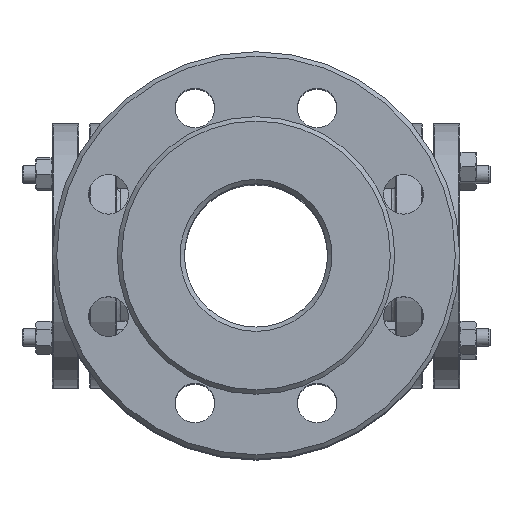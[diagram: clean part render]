
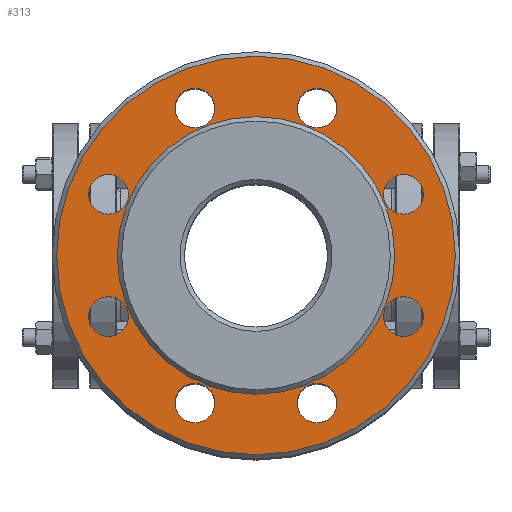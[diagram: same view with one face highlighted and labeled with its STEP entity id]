
A CAD part, top view. The second image highlights one B-rep face of the part: STEP entity #313.
In plain terms, the highlighted planar face has unit normal (0, 0, 1).
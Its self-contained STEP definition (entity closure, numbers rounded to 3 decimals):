
#313=ADVANCED_FACE('',(#2868,#2870,#2872,#2874,#2876,#2878,#2880,#2882,#2884,#2886),
#2888,.T.);
#2868=FACE_BOUND('',#2869,.T.);
#2869=EDGE_LOOP('',(#8361));
#2870=FACE_BOUND('',#2871,.T.);
#2871=EDGE_LOOP('',(#8362));
#2872=FACE_BOUND('',#2873,.T.);
#2873=EDGE_LOOP('',(#8363));
#2874=FACE_BOUND('',#2875,.T.);
#2875=EDGE_LOOP('',(#8364));
#2876=FACE_BOUND('',#2877,.T.);
#2877=EDGE_LOOP('',(#8365));
#2878=FACE_BOUND('',#2879,.T.);
#2879=EDGE_LOOP('',(#8366));
#2880=FACE_BOUND('',#2881,.T.);
#2881=EDGE_LOOP('',(#8367));
#2882=FACE_BOUND('',#2883,.T.);
#2883=EDGE_LOOP('',(#8368));
#2884=FACE_BOUND('',#2885,.T.);
#2885=EDGE_LOOP('',(#8369));
#2886=FACE_BOUND('',#2887,.T.);
#2887=EDGE_LOOP('',(#8370));
#2888=PLANE('',#2889);
#2889=AXIS2_PLACEMENT_3D('',#2890,#2891,#2892);
#2890=CARTESIAN_POINT('',(0.,0.,143.));
#2891=DIRECTION('',(0.,0.,1.));
#2892=DIRECTION('',(1.,0.,0.));
#8361=ORIENTED_EDGE('',*,*,#10688,.T.);
#8362=ORIENTED_EDGE('',*,*,#10689,.F.);
#8363=ORIENTED_EDGE('',*,*,#10690,.T.);
#8364=ORIENTED_EDGE('',*,*,#10691,.T.);
#8365=ORIENTED_EDGE('',*,*,#10692,.T.);
#8366=ORIENTED_EDGE('',*,*,#10637,.F.);
#8367=ORIENTED_EDGE('',*,*,#10693,.T.);
#8368=ORIENTED_EDGE('',*,*,#10694,.F.);
#8369=ORIENTED_EDGE('',*,*,#10695,.F.);
#8370=ORIENTED_EDGE('',*,*,#10696,.T.);
#10637=EDGE_CURVE('',#11879,#11879,#11880,.T.);
#10688=EDGE_CURVE('',#11957,#11957,#11958,.T.);
#10689=EDGE_CURVE('',#11959,#11959,#11960,.T.);
#10690=EDGE_CURVE('',#11961,#11961,#11962,.T.);
#10691=EDGE_CURVE('',#11963,#11963,#11964,.T.);
#10692=EDGE_CURVE('',#11965,#11965,#11966,.T.);
#10693=EDGE_CURVE('',#11967,#11967,#11968,.T.);
#10694=EDGE_CURVE('',#11969,#11969,#11970,.T.);
#10695=EDGE_CURVE('',#11971,#11971,#11972,.T.);
#10696=EDGE_CURVE('',#11973,#11973,#11974,.T.);
#11879=VERTEX_POINT('',#15457);
#11880=CIRCLE('',#15458,63.);
#11957=VERTEX_POINT('',#16456);
#11958=CIRCLE('',#16457,90.5);
#11959=VERTEX_POINT('',#16461);
#11960=CIRCLE('',#16462,9.);
#11961=VERTEX_POINT('',#16466);
#11962=CIRCLE('',#16467,9.);
#11963=VERTEX_POINT('',#16471);
#11964=CIRCLE('',#16472,9.);
#11965=VERTEX_POINT('',#16476);
#11966=CIRCLE('',#16477,9.);
#11967=VERTEX_POINT('',#16481);
#11968=CIRCLE('',#16482,9.);
#11969=VERTEX_POINT('',#16486);
#11970=CIRCLE('',#16487,9.);
#11971=VERTEX_POINT('',#16491);
#11972=CIRCLE('',#16492,9.);
#11973=VERTEX_POINT('',#16496);
#11974=CIRCLE('',#16497,9.);
#15457=CARTESIAN_POINT('',(63.,0.,143.));
#15458=AXIS2_PLACEMENT_3D('',#15459,#15460,#15461);
#15459=CARTESIAN_POINT('',(0.,0.,143.));
#15460=DIRECTION('',(0.,0.,1.));
#15461=DIRECTION('',(1.,0.,0.));
#16456=CARTESIAN_POINT('',(90.5,0.,143.));
#16457=AXIS2_PLACEMENT_3D('',#16458,#16459,#16460);
#16458=CARTESIAN_POINT('',(0.,0.,143.));
#16459=DIRECTION('',(0.,0.,1.));
#16460=DIRECTION('',(1.,0.,0.));
#16461=CARTESIAN_POINT('',(-57.981,27.745,143.));
#16462=AXIS2_PLACEMENT_3D('',#16463,#16464,#16465);
#16463=CARTESIAN_POINT('',(-66.981,27.745,143.));
#16464=DIRECTION('',(0.,0.,1.));
#16465=DIRECTION('',(1.,0.,0.));
#16466=CARTESIAN_POINT('',(36.745,66.981,143.));
#16467=AXIS2_PLACEMENT_3D('',#16468,#16469,#16470);
#16468=CARTESIAN_POINT('',(27.745,66.981,143.));
#16469=DIRECTION('',(0.,0.,-1.));
#16470=DIRECTION('',(1.,0.,0.));
#16471=CARTESIAN_POINT('',(36.745,-66.981,143.));
#16472=AXIS2_PLACEMENT_3D('',#16473,#16474,#16475);
#16473=CARTESIAN_POINT('',(27.745,-66.981,143.));
#16474=DIRECTION('',(0.,0.,-1.));
#16475=DIRECTION('',(1.,0.,0.));
#16476=CARTESIAN_POINT('',(75.981,-27.745,143.));
#16477=AXIS2_PLACEMENT_3D('',#16478,#16479,#16480);
#16478=CARTESIAN_POINT('',(66.981,-27.745,143.));
#16479=DIRECTION('',(0.,0.,-1.));
#16480=DIRECTION('',(1.,0.,0.));
#16481=CARTESIAN_POINT('',(75.981,27.745,143.));
#16482=AXIS2_PLACEMENT_3D('',#16483,#16484,#16485);
#16483=CARTESIAN_POINT('',(66.981,27.745,143.));
#16484=DIRECTION('',(0.,0.,-1.));
#16485=DIRECTION('',(1.,0.,0.));
#16486=CARTESIAN_POINT('',(-36.745,66.981,143.));
#16487=AXIS2_PLACEMENT_3D('',#16488,#16489,#16490);
#16488=CARTESIAN_POINT('',(-27.745,66.981,143.));
#16489=DIRECTION('',(0.,0.,1.));
#16490=DIRECTION('',(-1.,0.,0.));
#16491=CARTESIAN_POINT('',(-36.745,-66.981,143.));
#16492=AXIS2_PLACEMENT_3D('',#16493,#16494,#16495);
#16493=CARTESIAN_POINT('',(-27.745,-66.981,143.));
#16494=DIRECTION('',(0.,0.,1.));
#16495=DIRECTION('',(-1.,0.,0.));
#16496=CARTESIAN_POINT('',(-57.981,-27.745,143.));
#16497=AXIS2_PLACEMENT_3D('',#16498,#16499,#16500);
#16498=CARTESIAN_POINT('',(-66.981,-27.745,143.));
#16499=DIRECTION('',(0.,0.,-1.));
#16500=DIRECTION('',(1.,0.,0.));
